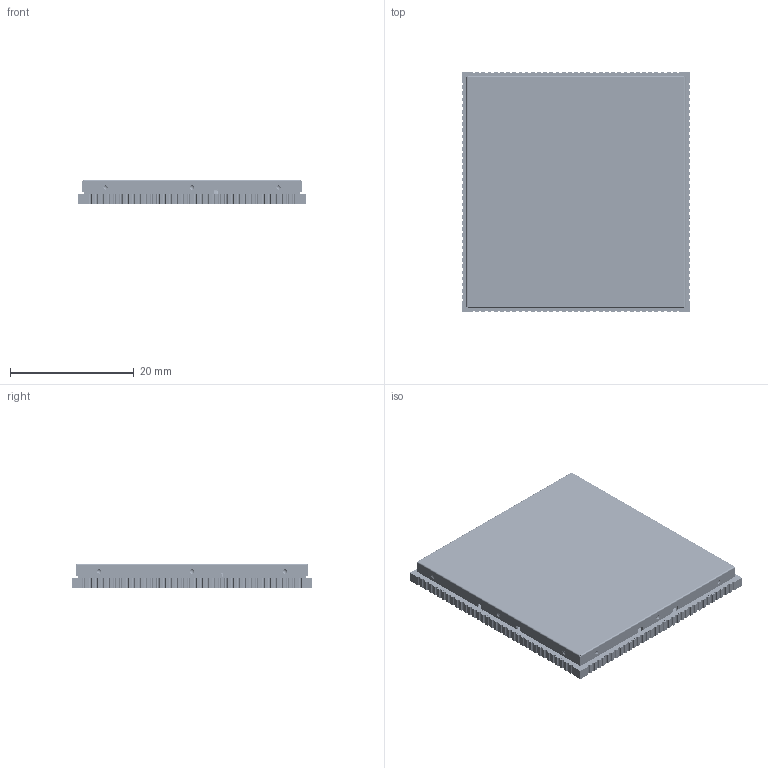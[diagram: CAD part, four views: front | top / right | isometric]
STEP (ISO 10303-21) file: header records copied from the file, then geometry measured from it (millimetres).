
FILE_DESCRIPTION((''),'2;1');
FILE_NAME('MYC-YT113I_V10_ASM','2023-08-16T09:09:29',('89233'),(''),'CREO PARAMETRIC BY PTC INC, 2023073','CREO PARAMETRIC BY PTC INC, 2023073','');
FILE_SCHEMA(('AUTOMOTIVE_DESIGN { 1 0 10303 214 1 1 1 1 }'));
Products named in the file (221): WPN252010UF1R0MT; IND2520_H12_ASM_6_ASM; L2X2_5_ASM_6_ASM; L2X2_5_ASM; PRODUCT_1_0_1_1_3; PRODUCT_1_0_1_2_3; PRODUCT_1_0_1_3_3; PRODUCT_1_0_1_4_3; PRODUCT_1_0_1_5_3; PRODUCT_1_0_1_6_3; PRODUCT_1_0_1_7_3; PRODUCT_1_0_1_ASM_3_ASM; TSOT23-5_ASM_4_ASM; TSOT23-5_ASM; NONE-20964_2_4; NONE-20965_2_4; NONE-20966_2_4; NONE-20967_2_4; NONE-20968_2_4; NONE-20969_2_4; NONE-20970_2_4; NONE-20971_2_4; NONE-20972_2_4; NONE-20973_2_4; NONE-20974_2_4; NONE-20975_2_4; NONE-20976_2_4; NONE-20977_2_4; NONE-20978_2_4; NONE-20979_2_4; NONE-20980_2_4; NONE-20981_2_4; NONE-20982_2_4; NONE-20983_2_4; NONE-20984_2_4; NONE-20985_2_4; NONE-20986_2_4; NONE-20987_2_4; NONE-20988_2_4; NONE-20989_2_4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
Assembly tree (415 placements, depth 7):
  MYC-YT113I_V10_ASM
    MYC-YT113I_V10-20230808_1_ASM
      COMPONENTS_ASM
        L2X2_5_ASM  x4
          L2X2_5_ASM_6_ASM
            IND2520_H12_ASM_6_ASM
              WPN252010UF1R0MT
        TSOT23-5_ASM  x3
          TSOT23-5_ASM_4_ASM
            PRODUCT_1_0_1_ASM_3_ASM
              PRODUCT_1_0_1_1_3
              PRODUCT_1_0_1_2_3
              PRODUCT_1_0_1_3_3
              PRODUCT_1_0_1_4_3
              PRODUCT_1_0_1_5_3
              PRODUCT_1_0_1_6_3
              PRODUCT_1_0_1_7_3
        BGA153_C010S_ASM
          BGA153_C010S_ASM_2_ASM_4_ASM
            BGA153_AF0_ASM_2_ASM_4_ASM
              NONE-20964_2_4
              NONE-20965_2_4
              NONE-20966_2_4
              NONE-20967_2_4
              NONE-20968_2_4
              NONE-20969_2_4
              NONE-20970_2_4
              NONE-20971_2_4
              NONE-20972_2_4
              NONE-20973_2_4
              NONE-20974_2_4
              NONE-20975_2_4
              NONE-20976_2_4
              NONE-20977_2_4
              NONE-20978_2_4
              NONE-20979_2_4
              NONE-20980_2_4
              NONE-20981_2_4
              NONE-20982_2_4
              NONE-20983_2_4
              NONE-20984_2_4
              NONE-20985_2_4
              NONE-20986_2_4
              NONE-20987_2_4
              NONE-20988_2_4
              NONE-20989_2_4
              NONE-20990_2_4
              NONE-20991_2_4
              NONE-20992_2_4
              NONE-20993_2_4
              NONE-20994_2_4
              NONE-20995_2_4
              NONE-20996_2_4
              NONE-20997_2_4
              NONE-20998_2_4
              NONE-20999_2_4
              NONE-21000_2_4
              NONE-21001_2_4
              NONE-21002_2_4
              _1_AF0_2_4
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Bounding box: 37 x 39 x 3.87 mm (x, y, z)
Volume: 3296.1 mm3; surface area: 9444.4 mm2
Topology: 775 solids, 779 shells, 14478 faces, 50429 edges, 42043 vertices
Faces by surface type: plane 9005, cylinder 3105, sphere 1438, torus 478, bspline 348, extrusion 104
Entity records: 276274 total; most frequent: CARTESIAN_POINT 42215, DIRECTION 38405, ORIENTED_EDGE 18458, PRESENTATION_STYLE_ASSIGNMENT 16596, STYLED_ITEM 16306, CURVE_STYLE 16114, AXIS2_PLACEMENT_3D 13369, VECTOR 11034
